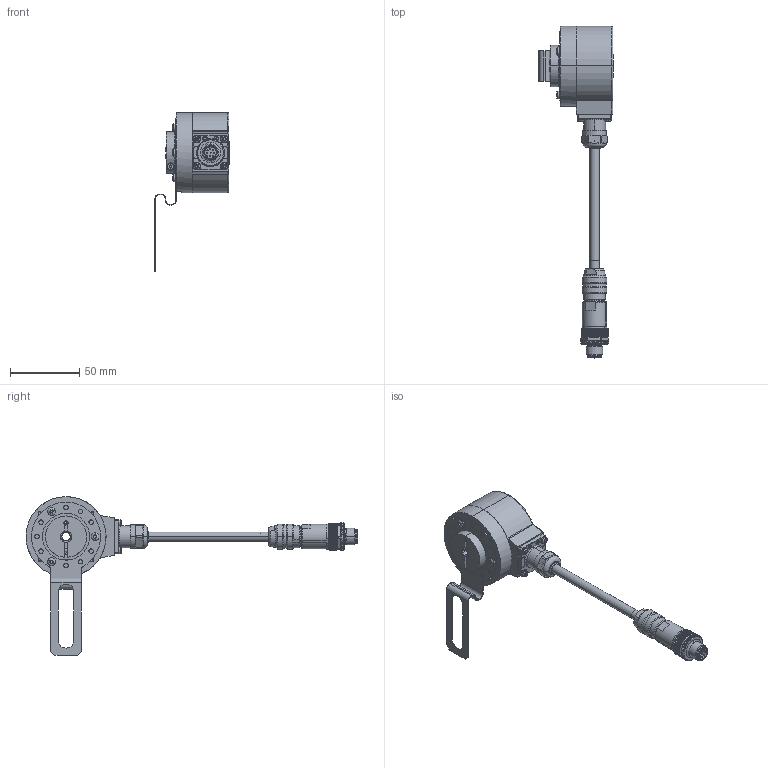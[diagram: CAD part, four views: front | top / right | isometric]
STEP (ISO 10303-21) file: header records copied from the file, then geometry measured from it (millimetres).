
FILE_DESCRIPTION (( 'STEP AP203' ), '1' );
FILE_NAME ('K58I.OXX.XXXXX.XH14506.6XR12.XXXX.step', '2025-12-08T13:29:56', ( '' ), ( '' ), 'SwSTEP 2.0', 'SolidWorks 2021', '' );
FILE_SCHEMA (( 'CONFIG_CONTROL_DESIGN' ));
Length unit declared in the file: millimetre
Products named in the file (1): K58I.OXX.XXXXX.XH14506.6XR12.XXXX
Bounding box: 53.79 x 240.49 x 115 mm (x, y, z)
Volume: 132769.9 mm3; surface area: 46779.3 mm2
Topology: 18 solids, 18 shells, 1666 faces, 4124 edges, 2521 vertices
Faces by surface type: cylinder 643, plane 578, cone 313, bspline 60, torus 40, sphere 32
Entity records: 53450 total; most frequent: CARTESIAN_POINT 15029, ORIENTED_EDGE 8150, DIRECTION 7947, EDGE_CURVE 4075, AXIS2_PLACEMENT_3D 3171, VERTEX_POINT 2503, EDGE_LOOP 1772, ADVANCED_FACE 1666
